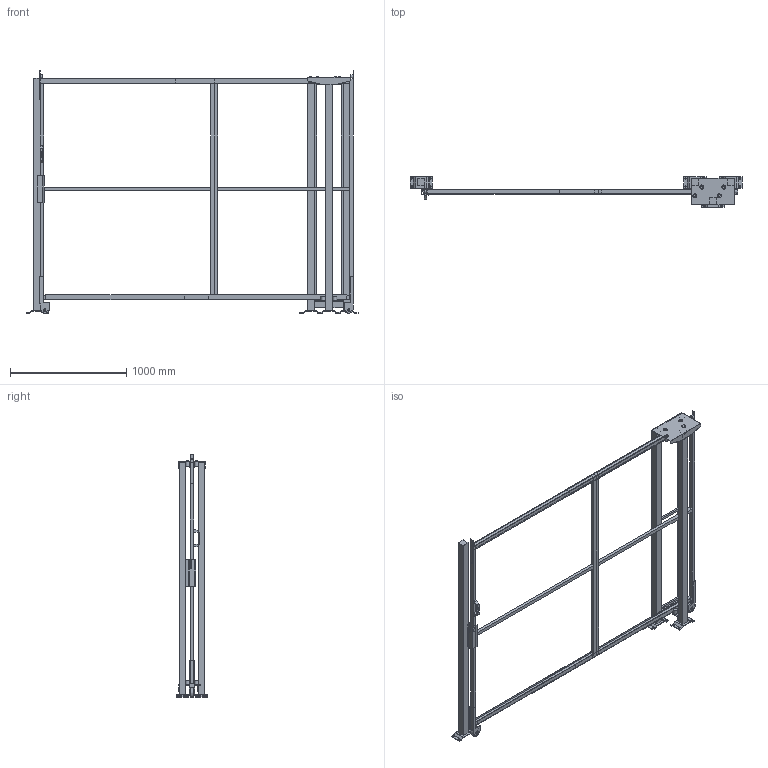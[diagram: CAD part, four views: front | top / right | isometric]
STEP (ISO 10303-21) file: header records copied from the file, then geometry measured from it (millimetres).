
FILE_DESCRIPTION(/* description */ (''),/* implementation_level */ '2;1');
FILE_NAME(/* name */ 'C:\SafeGuarding\ELABORATI\KLADKA_2025-03-19-13-21-41.stp',/* time_stamp */ '2025-03-19T13:21:42+01:00',/* author */ ('admin'),/* organization */ (''),/* preprocessor_version */ 'ST-DEVELOPER v18.1',/* originating_system */ 'AutoCAD Mechanical',/* authorisation */ '');
FILE_SCHEMA (('AUTOMOTIVE_DESIGN { 1 0 10303 214 3 1 1 }'));
Length unit declared in the file: millimetre
Products named in the file (5): Product; R_VFPA.REPE30.12001900; R_VFPA.REPE30.15001900; R_VFPA.REPE20.02501900; P_VFMA.V260SDU.2020
Assembly tree (7 placements, depth 2):
  Product
    R_VFPA.REPE30.12001900
    R_VFPA.REPE30.15001900
    R_VFPA.REPE20.02501900
    P_VFMA.V260SDU.2020  x4
Bounding box: 2862.02 x 264.1 x 2090.02 mm (x, y, z)
Volume: 48010054.2 mm3; surface area: 6532003.9 mm2
Topology: 61 solids, 72 shells, 555 faces, 1728 edges, 1758 vertices
Faces by surface type: plane 503, cylinder 50, sphere 2
Full cylindrical faces by diameter (mm): 9 x4, 11 x16, 13 x4, 30 x6, 36 x8, 80 x2
Entity records: 16193 total; most frequent: CARTESIAN_POINT 3503, DIRECTION 2452, ORIENTED_EDGE 2202, LINE 1210, VECTOR 1210, EDGE_CURVE 1150, VERTEX_POINT 806, AXIS2_PLACEMENT_3D 621
